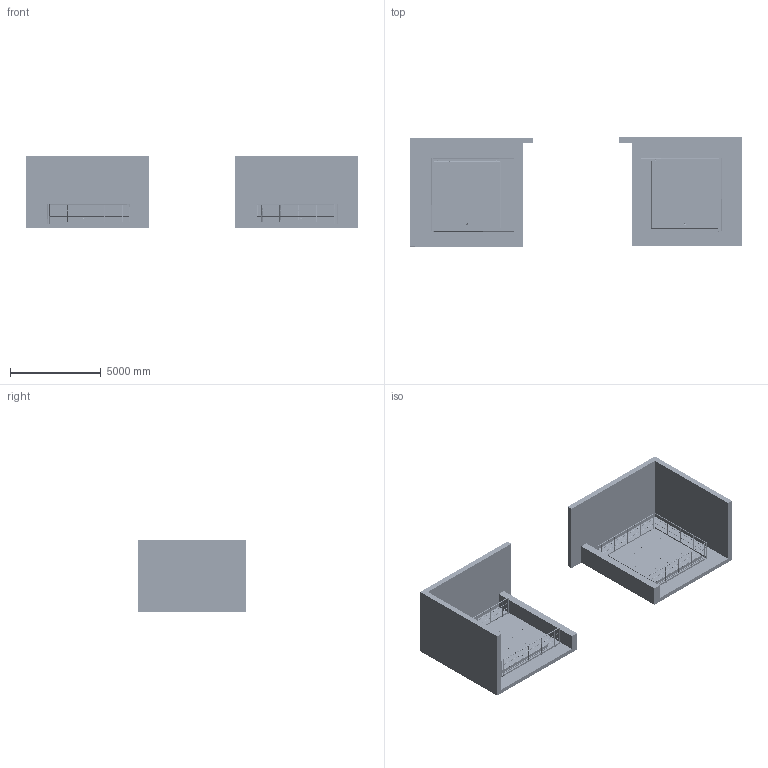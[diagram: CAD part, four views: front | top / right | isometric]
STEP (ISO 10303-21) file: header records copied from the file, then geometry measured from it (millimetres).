
FILE_DESCRIPTION(('TFLEX Exchange Step'),'2;1');
FILE_NAME('as_gray_1.stp', '2026-11-05T21:30:42+01:00',('User'),('Unknown organisation'),'TFLEX Exchange 2021.2','T-FLEX CAD','Unknown authorisation');
FILE_SCHEMA( ('AUTOMOTIVE_DESIGN { 1 0 10303 214 1 1 1 1 }') );
Length unit declared in the file: millimetre
Products named in the file (853): EnBW Abdeckung Bunker; Ohne Position - Blech t=300 mm - C25/30 - 3705 mm - 1081.49 kg/St - 2x; Ohne Position - Blech t=240 mm - C25/30 - 5525 mm - 10675.85 kg/St - 2x; Ohne Position - Blech t=4000 mm - C25/30 - 6805 mm - 37529.88 kg/St - 2x; Ohne Position - Blech t=1100 mm - C25/30 - 400 mm - 6275.50 kg/St - 2x; Ohne Position - U120 - S235JR - 3665 mm - 48.56 kg/St - 16x; Ohne Position - IPE 120 - S235JR - 3621 mm - 35.73 kg/St - 6x; Ohne Position - IPE 80 - S235JR - 873 mm - 5.09 kg/St - 8x; Ohne Position - L150X75X10 - S235JR - 80 mm - 1.35 kg/St - 56x; Ohne Positionsnummer; Ohne Position - Blech t=20 mm - S235JR - 105 mm - 0.95 kg/St - 20x; Ohne Position - FL 40x4 - S235JR - 3665 mm - 4.60 kg/St - 16x; Ohne Position - Blech t=40 mm - S235JR - 1825 mm - 50.04 kg/St - 16x; Ohne Position - Blech t=5 mm - S235JR - 1831 mm - 65.83 kg/St - 40x; Ohne Position - FL 50x10 - EPDM-Vollgummi 50 Shore A - 3666 mm - 14.39 kg/St - 8x; Ohne Position - Blech t=15 mm - S235JR - 190 mm - 3.13 kg/St - 14x; Ohne Position - Blech t=10 mm - S235JR - 60 mm - 0.21 kg/St - 44x; Ohne Position - Sonderteil - 1.4301 - 80 mm - 44x; Ohne Position - RR 48.3x4 - S235JR - 4444 mm - 18.72 kg/St - 38x; Ohne Position - FL 100x8 - S235JR - 4396 mm - 27.61 kg/St - 6x; Ohne Position - RR 26.9x2.6 - S235JR - 954 mm - 1.45 kg/St - 58x; Ohne Position - Blech t=3 mm - S235JR - 48 mm - 0.04 kg/St - 2x
Assembly tree (852 placements, depth 2):
  EnBW Abdeckung Bunker
    Ohne Position - Blech t=300 mm - C25/30 - 3705 mm - 1081.49 kg/St - 2x
    Ohne Position - Blech t=300 mm - C25/30 - 3705 mm - 1081.49 kg/St - 2x
    Ohne Position - Blech t=240 mm - C25/30 - 5525 mm - 10675.85 kg/St - 2x
    Ohne Position - Blech t=240 mm - C25/30 - 5525 mm - 10675.85 kg/St - 2x
    Ohne Position - Blech t=4000 mm - C25/30 - 6805 mm - 37529.88 kg/St - 2x
    Ohne Position - Blech t=4000 mm - C25/30 - 6805 mm - 37529.88 kg/St - 2x
    Ohne Position - Blech t=1100 mm - C25/30 - 400 mm - 6275.50 kg/St - 2x
    Ohne Position - Blech t=1100 mm - C25/30 - 400 mm - 6275.50 kg/St - 2x
    Ohne Position - U120 - S235JR - 3665 mm - 48.56 kg/St - 16x
    Ohne Position - U120 - S235JR - 3665 mm - 48.56 kg/St - 16x
    Ohne Position - U120 - S235JR - 3665 mm - 48.56 kg/St - 16x
    Ohne Position - U120 - S235JR - 3665 mm - 48.56 kg/St - 16x
    Ohne Position - U120 - S235JR - 3665 mm - 48.56 kg/St - 16x
    Ohne Position - U120 - S235JR - 3665 mm - 48.56 kg/St - 16x
    Ohne Position - U120 - S235JR - 3665 mm - 48.56 kg/St - 16x
    Ohne Position - U120 - S235JR - 3665 mm - 48.56 kg/St - 16x
    Ohne Position - U120 - S235JR - 3665 mm - 48.56 kg/St - 16x
    Ohne Position - U120 - S235JR - 3665 mm - 48.56 kg/St - 16x
    Ohne Position - U120 - S235JR - 3665 mm - 48.56 kg/St - 16x
    Ohne Position - U120 - S235JR - 3665 mm - 48.56 kg/St - 16x
    Ohne Position - U120 - S235JR - 3665 mm - 48.56 kg/St - 16x
    Ohne Position - U120 - S235JR - 3665 mm - 48.56 kg/St - 16x
    Ohne Position - U120 - S235JR - 3665 mm - 48.56 kg/St - 16x
    Ohne Position - U120 - S235JR - 3665 mm - 48.56 kg/St - 16x
    Ohne Position - IPE 120 - S235JR - 3621 mm - 35.73 kg/St - 6x
    Ohne Position - IPE 120 - S235JR - 3621 mm - 35.73 kg/St - 6x
    Ohne Position - IPE 120 - S235JR - 3621 mm - 35.73 kg/St - 6x
    Ohne Position - IPE 120 - S235JR - 3621 mm - 35.73 kg/St - 6x
    Ohne Position - IPE 120 - S235JR - 3621 mm - 35.73 kg/St - 6x
    Ohne Position - IPE 120 - S235JR - 3621 mm - 35.73 kg/St - 6x
    Ohne Position - IPE 80 - S235JR - 873 mm - 5.09 kg/St - 8x
    Ohne Position - IPE 80 - S235JR - 873 mm - 5.09 kg/St - 8x
    Ohne Position - IPE 80 - S235JR - 873 mm - 5.09 kg/St - 8x
    Ohne Position - IPE 80 - S235JR - 873 mm - 5.09 kg/St - 8x
    Ohne Position - IPE 80 - S235JR - 873 mm - 5.09 kg/St - 8x
    Ohne Position - IPE 80 - S235JR - 873 mm - 5.09 kg/St - 8x
    Ohne Position - IPE 80 - S235JR - 873 mm - 5.09 kg/St - 8x
    Ohne Position - IPE 80 - S235JR - 873 mm - 5.09 kg/St - 8x
    Ohne Position - L150X75X10 - S235JR - 80 mm - 1.35 kg/St - 56x
    Ohne Position - L150X75X10 - S235JR - 80 mm - 1.35 kg/St - 56x
    Ohne Position - L150X75X10 - S235JR - 80 mm - 1.35 kg/St - 56x
    Ohne Position - L150X75X10 - S235JR - 80 mm - 1.35 kg/St - 56x
    Ohne Position - L150X75X10 - S235JR - 80 mm - 1.35 kg/St - 56x
    Ohne Position - L150X75X10 - S235JR - 80 mm - 1.35 kg/St - 56x
    Ohne Position - L150X75X10 - S235JR - 80 mm - 1.35 kg/St - 56x
    Ohne Position - L150X75X10 - S235JR - 80 mm - 1.35 kg/St - 56x
    Ohne Position - L150X75X10 - S235JR - 80 mm - 1.35 kg/St - 56x
    Ohne Position - L150X75X10 - S235JR - 80 mm - 1.35 kg/St - 56x
    Ohne Position - L150X75X10 - S235JR - 80 mm - 1.35 kg/St - 56x
    Ohne Position - L150X75X10 - S235JR - 80 mm - 1.35 kg/St - 56x
    Ohne Position - L150X75X10 - S235JR - 80 mm - 1.35 kg/St - 56x
    Ohne Position - L150X75X10 - S235JR - 80 mm - 1.35 kg/St - 56x
    Ohne Position - L150X75X10 - S235JR - 80 mm - 1.35 kg/St - 56x
    Ohne Position - L150X75X10 - S235JR - 80 mm - 1.35 kg/St - 56x
    Ohne Position - L150X75X10 - S235JR - 80 mm - 1.35 kg/St - 56x
    Ohne Position - L150X75X10 - S235JR - 80 mm - 1.35 kg/St - 56x
    Ohne Position - L150X75X10 - S235JR - 80 mm - 1.35 kg/St - 56x
    Ohne Position - L150X75X10 - S235JR - 80 mm - 1.35 kg/St - 56x
    Ohne Position - L150X75X10 - S235JR - 80 mm - 1.35 kg/St - 56x
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Bounding box: 18310.5 x 6010.5 x 4000 mm (x, y, z)
Volume: 45557773559.4 mm3; surface area: 549110756.3 mm2
Topology: 852 solids, 852 shells, 14802 faces, 34799 edges, 23627 vertices
Faces by surface type: plane 9706, cylinder 4330, cone 344, bspline 316, torus 106
Full cylindrical faces by diameter (mm): 4.5 x2, 5 x4, 6 x576, 8 x288, 8.002 x96, 9.002 x192, 10.002 x8, 12 x904, 14 x2, 14.002 x404, 16.3 x2, 19 x2, 19.05 x2, 20 x36, 20.4 x4, 21 x12, 21.7 x58, 22.002 x46, 24 x312, 26.9 x58, 30 x4, 37 x44, 40.3 x38, 48.3 x40, 50.002 x32, 65.002 x32, 120 x32
Entity records: 1272818 total; most frequent: CARTESIAN_POINT 931542, ORIENTED_EDGE 65334, DIRECTION 61765, EDGE_CURVE 32667, VERTEX_POINT 23625, EDGE_LOOP 21438, FACE_BOUND 21438, AXIS2_PLACEMENT_3D 21173
